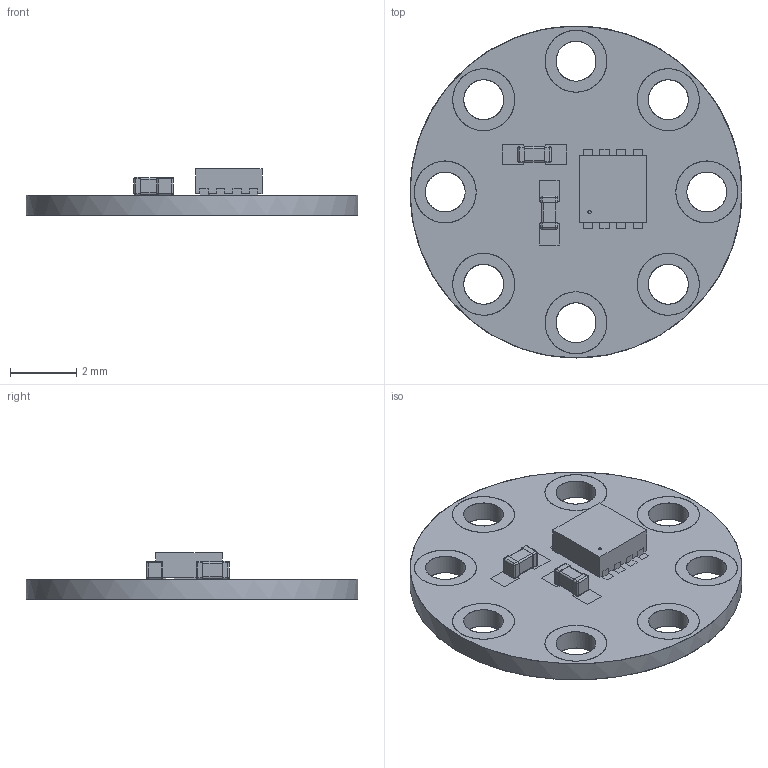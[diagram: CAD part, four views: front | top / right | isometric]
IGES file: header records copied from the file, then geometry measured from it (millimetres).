
Global section: file name: Filename.iges; native system: Open CASCADE 7.4; preprocessor: Open CASCADE IGES processor 7.4; date: 20200824.165535; units: millimetre
Bounding box: 10 x 10 x 1.4 mm (x, y, z)
Surface area: 447.5 mm2 (no closed solid volume)
Topology: 0 solids, 0 shells, 362 faces, 1892 edges, 2672 vertices
Faces by surface type: plane 256, revolution 106
